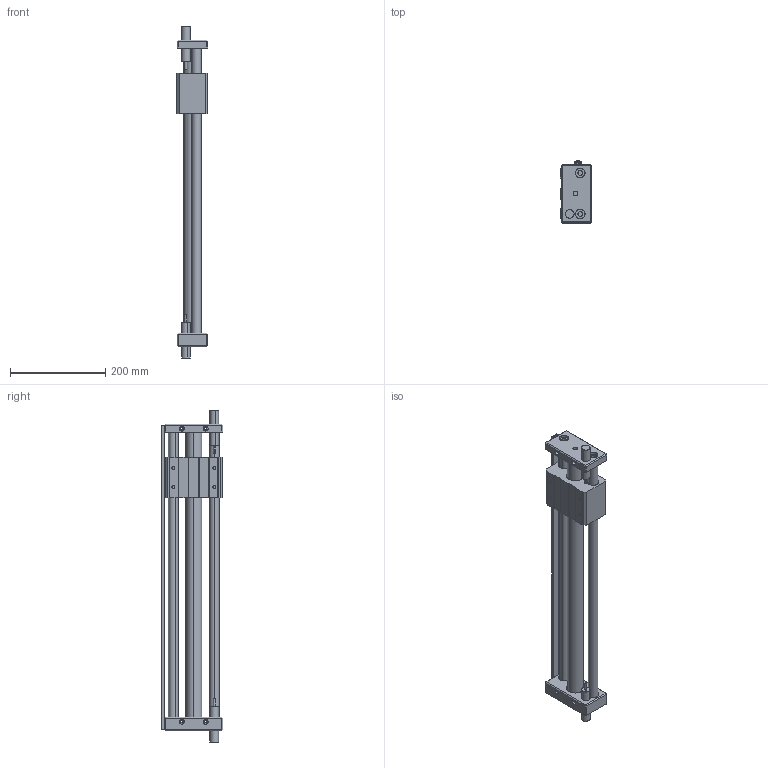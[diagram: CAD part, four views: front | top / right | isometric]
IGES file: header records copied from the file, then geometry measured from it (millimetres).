
Start section: SolidWorks IGES file using analytic representation for surfaces
Global section: file name: D:\Documents de SGA\Pieces 2D et 3D\GRU\iges\GRU 32.500.IGS; native system: SolidWorks 2010; preprocessor: SolidWorks 2010; author: SGA; date: 111216.134542; units: millimetre
Bounding box: 66 x 129.37 x 696.06 mm (x, y, z)
Surface area: 315483.9 mm2 (no closed solid volume)
Topology: 0 solids, 0 shells, 246 faces, 3800 edges, 3800 vertices
Faces by surface type: bspline 126, revolution 120
